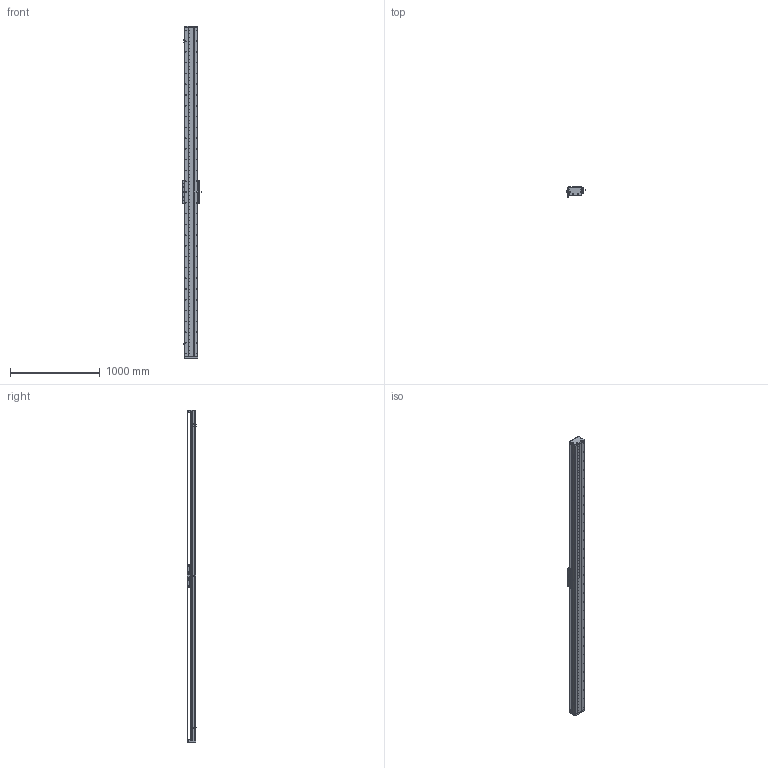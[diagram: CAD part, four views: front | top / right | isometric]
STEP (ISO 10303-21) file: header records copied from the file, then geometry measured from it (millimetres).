
FILE_DESCRIPTION (( 'STEP AP203' ), '1' );
FILE_NAME ('DA-C145-C3-T3360-C010-0.2 眻盄萇儂.STEP', '2025-08-14T01:38:40', ( '' ), ( '' ), 'SwSTEP 2.0', 'SolidWorks 2019', '' );
FILE_SCHEMA (( 'CONFIG_CONTROL_DESIGN' ));
Length unit declared in the file: millimetre
Products named in the file (32): 葩璃 DA145-C3-DP-A-00 菜えA^CU145-W 幗紩賑怢; 葩璃 鞠褒情蹟譫 M3^DA-C145-C3-T-C010-0.2; 复件 DA146 钢带垫块^复件 CU145 钢带组件_DA-C145-C3-T-C010-0.2; 复件 DA95-HK-GT-00 滑块钢轨^CU145-W-00 一体化滑动台板; 葩璃 CKM03-W060-C1C2-TP-0.2^DA-C145-C3-T-C010-0.2; 葩璃 XD-U-02L 棠掑喜^DA-C145-C3-T-C010-0.2; 葩璃 PM-T45^DA-C145-C3-T-C010-0.2; 葩璃 DMA-010-0.2 黍杅芛^DA-C145-C3-T-C010-0.2; IU-CU145-L 菁釱絳寢; 葩璃 CU145 詩湍郪璃^DA-C145-C3-T-C010-0.2; 复件 DA145-GYP-00 光电感应片^DA-C145-C3-T-C010-0.2; 复件 DA95-DB-00  挡板^CU145-W 滚珠滑台; 复件 DA146 钢带拉块^复件 CU145 钢带组件_DA-C145-C3-T-C010-0.2; 复件 DA145-DG 钢带端盖^复件 CU145 钢带组件_DA-C145-C3-T-C010-0.2; 复件 半圆头内六角螺钉 M3×6^CU145-W 滚珠滑台; IU-CU145-L-00 菁釱(L3660); CU145-W 幗紩賑怢; 复件 DA95-MFP-01 密封片^CU145-W 滚珠滑台; 葩璃 DA145-C3-DP-B-00 菜えB^CU145-W 幗紩賑怢; 葩璃 DA95-HXJ-00 遣喳砎蝶^DA-C145-C3-T-C010-0.2; 复件 纯铜油杯 6x6mm^CU145-W 滚珠滑台; 复件 内六角平端紧定螺钉 GB.T77-2000 M5×10^CU145-W 滚珠滑台; 复件 DA145-C3-YB-A-00 压板A^CU145-W 滚珠滑台; CU145-W-00 珨极趙賑雄怢啣; 复件 DA145 钢带^复件 CU145 钢带组件_DA-C145-C3-T-C010-0.2; 复件 DA145-C3-YB-B-00 压板B^CU145-W 滚珠滑台; TAY01-M8; 复件 DA145-C3-DK-00 挡块^CU145-W 滚珠滑台; 葩璃 DA95-GT-T-00^IU-CU145-L 菁釱絳寢; 葩璃 CKMA01-W060-TRL^DA-C145-C3-T-C010-0.2; DA-C145-C3-T3360-C010-0.2 眻盄萇儂; 66245-CU145-HT-W-00 賑雄怢啣(3D芞祧)(00)
Assembly tree (103 placements, depth 4):
  DA-C145-C3-T3360-C010-0.2 眻盄萇儂
    IU-CU145-L 菁釱絳寢
      IU-CU145-L-00 菁釱(L3660)
      葩璃 DA95-GT-T-00^IU-CU145-L 菁釱絳寢  x4
    葩璃 CU145 詩湍郪璃^DA-C145-C3-T-C010-0.2
      复件 DA145-DG 钢带端盖^复件 CU145 钢带组件_DA-C145-C3-T-C010-0.2  x2
      复件 DA146 钢带拉块^复件 CU145 钢带组件_DA-C145-C3-T-C010-0.2  x2
      复件 DA146 钢带垫块^复件 CU145 钢带组件_DA-C145-C3-T-C010-0.2  x2
      复件 DA145 钢带^复件 CU145 钢带组件_DA-C145-C3-T-C010-0.2
    CU145-W 幗紩賑怢
      CU145-W-00 珨极趙賑雄怢啣
        66245-CU145-HT-W-00 賑雄怢啣(3D芞祧)(00)
        复件 DA95-HK-GT-00 滑块钢轨^CU145-W-00 一体化滑动台板  x8
      复件 DA95-MFP-01 密封片^CU145-W 滚珠滑台  x8
      复件 DA95-DB-00  挡板^CU145-W 滚珠滑台  x8
      复件 内六角平端紧定螺钉 GB.T77-2000 M5×10^CU145-W 滚珠滑台  x4
      复件 纯铜油杯 6x6mm^CU145-W 滚珠滑台  x4
      复件 半圆头内六角螺钉 M3×6^CU145-W 滚珠滑台  x16
      复件 DA145-C3-DK-00 挡块^CU145-W 滚珠滑台  x4
      葩璃 DA145-C3-DP-B-00 菜えB^CU145-W 幗紩賑怢  x2
      复件 DA145-C3-YB-B-00 压板B^CU145-W 滚珠滑台  x2
      葩璃 DA145-C3-DP-A-00 菜えA^CU145-W 幗紩賑怢  x3
      复件 DA145-C3-YB-A-00 压板A^CU145-W 滚珠滑台  x3
      TAY01-M8  x4
    葩璃 CKMA01-W060-TRL^DA-C145-C3-T-C010-0.2
    葩璃 PM-T45^DA-C145-C3-T-C010-0.2  x3
    葩璃 XD-U-02L 棠掑喜^DA-C145-C3-T-C010-0.2
    葩璃 DA95-HXJ-00 遣喳砎蝶^DA-C145-C3-T-C010-0.2  x4
    复件 DA145-GYP-00 光电感应片^DA-C145-C3-T-C010-0.2
    葩璃 DMA-010-0.2 黍杅芛^DA-C145-C3-T-C010-0.2
    葩璃 CKM03-W060-C1C2-TP-0.2^DA-C145-C3-T-C010-0.2
    葩璃 鞠褒情蹟譫 M3^DA-C145-C3-T-C010-0.2  x8
Bounding box: 203.5 x 108.45 x 3696 mm (x, y, z)
Volume: 16504865 mm3; surface area: 5632173.4 mm2
Topology: 99 solids, 131 shells, 5076 faces, 15056 edges, 9502 vertices
Faces by surface type: cylinder 2694, plane 1614, cone 690, torus 74, sphere 4
Entity records: 153618 total; most frequent: CARTESIAN_POINT 48900, ORIENTED_EDGE 21632, DIRECTION 19927, EDGE_CURVE 10816, AXIS2_PLACEMENT_3D 7508, VERTEX_POINT 7041, LINE 4911, VECTOR 4911
